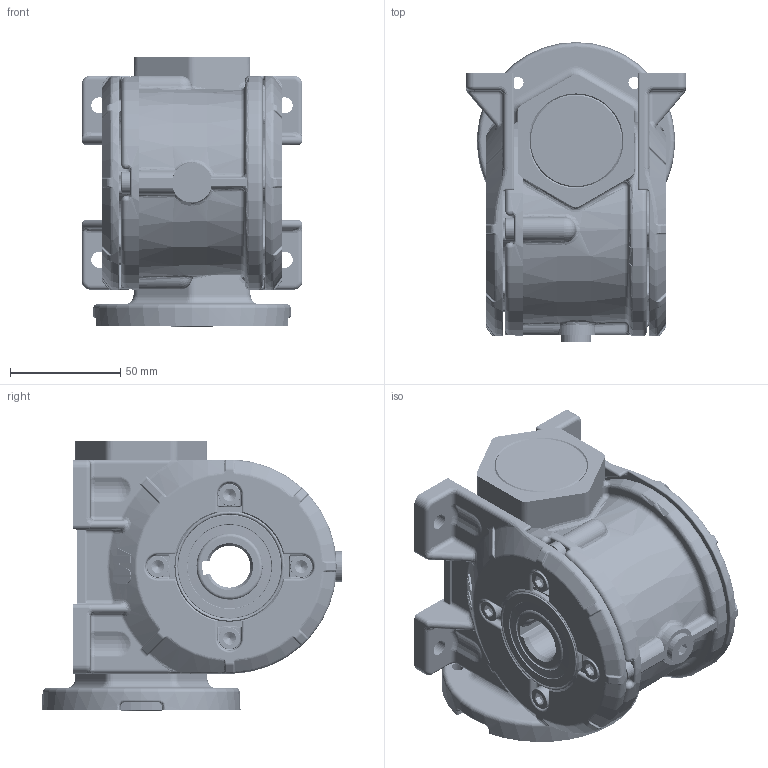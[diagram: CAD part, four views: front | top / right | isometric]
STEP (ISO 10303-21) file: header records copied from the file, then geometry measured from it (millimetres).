
FILE_DESCRIPTION (( 'STEP AP214' ), '1' );
FILE_NAME ('Sestava MRT40A-B.STEP', '2007-03-28T10:58:11', ( '' ), ( '' ), 'SwSTEP 2.0', 'SolidWorks 2004146', '' );
FILE_SCHEMA (( 'AUTOMOTIVE_DESIGN' ));
Length unit declared in the file: millimetre
Products named in the file (18): n029401b_Tìsnìní AS 20x35x7 DIN 3760-NB; NBRvíèko42_Výchozí; Šnekové kolo 40_Výchozí; Circlip for Shafts normal_din_Circlip DIN 471 - 15 x 1; pøíruba 40-75_Výchozí; Šnek 40_Výchozí; n029401b_Tìsnìní AS 30x47x7 DIN 3760-NB; N024630_Ložisko SKF 6006 ÈSN 024630; N024630_Ložisko SKF 6004 ÈSN 024630; N024630_Ložisko SKF 6302 ÈSN 024630; D6912_Šroub DIN 6912 - M6x12; D6912_Šroub DIN 6912 - M5x16; Sestava MRT40A-B; ZatkaM10x1DIN908_M10x1; Adaptér patky 40_Výchozí; skøíò_Výchozí; Circlip for Bores normal_din_Circlip DIN 472 - 42 x 1.75; pøíruba FT 40_Výchozí
Assembly tree (33 placements, depth 2):
  Sestava MRT40A-B
    D6912_Šroub DIN 6912 - M6x12  x12
    n029401b_Tìsnìní AS 30x47x7 DIN 3760-NB  x2
    D6912_Šroub DIN 6912 - M5x16  x3
    Circlip for Shafts normal_din_Circlip DIN 471 - 15 x 1
    Šnekové kolo 40_Výchozí
    pøíruba FT 40_Výchozí
    N024630_Ložisko SKF 6004 ÈSN 024630
    N024630_Ložisko SKF 6006 ÈSN 024630  x2
    N024630_Ložisko SKF 6302 ÈSN 024630
    pøíruba 40-75_Výchozí
    Adaptér patky 40_Výchozí  x2
    ZatkaM10x1DIN908_M10x1
    Circlip for Bores normal_din_Circlip DIN 472 - 42 x 1.75
    n029401b_Tìsnìní AS 20x35x7 DIN 3760-NB
    Šnek 40_Výchozí
    NBRvíèko42_Výchozí
    skøíò_Výchozí
Bounding box: 100 x 136 x 122.5 mm (x, y, z)
Volume: 555011.9 mm3; surface area: 255509.9 mm2
Topology: 33 solids, 33 shells, 4082 faces, 9981 edges, 5696 vertices
Faces by surface type: torus 1022, cylinder 892, bspline 724, plane 634, cone 629, sphere 181
Entity records: 292257 total; most frequent: CARTESIAN_POINT 227691, DIRECTION 13564, ORIENTED_EDGE 13478, EDGE_CURVE 6739, AXIS2_PLACEMENT_3D 6075, VERTEX_POINT 3996, CIRCLE 3744, EDGE_LOOP 2967
